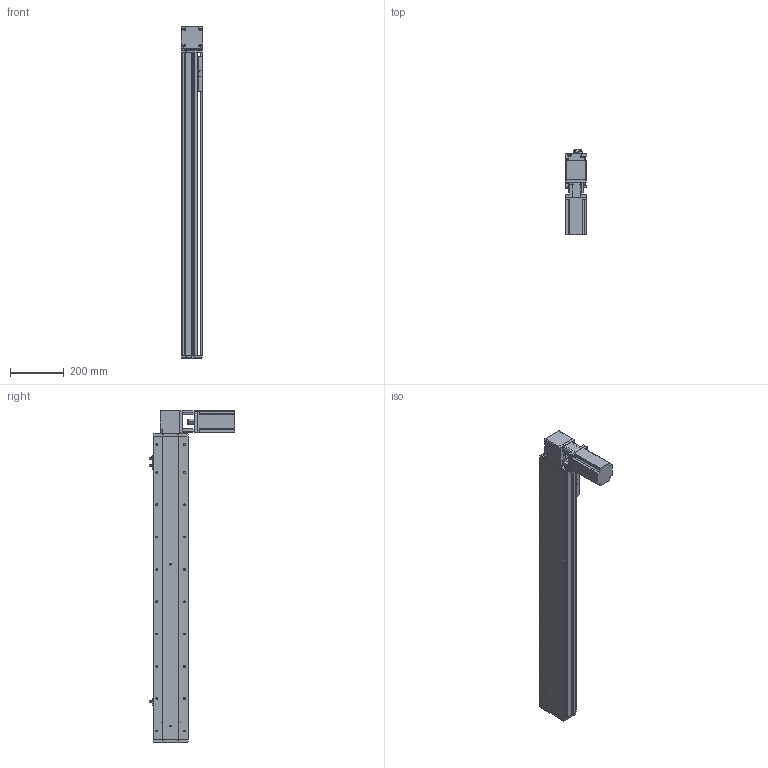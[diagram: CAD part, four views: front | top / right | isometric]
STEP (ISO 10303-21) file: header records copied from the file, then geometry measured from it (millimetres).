
FILE_DESCRIPTION (( 'STEP AP214' ), '1' );
FILE_NAME ('KSD130B-S900-MLT-CM.STEP', '2019-09-23T02:19:42', ( '微软用户' ), ( '微软中国' ), 'SwSTEP 2.0', 'SolidWorks 2014', '' );
FILE_SCHEMA (( 'AUTOMOTIVE_DESIGN' ));
Length unit declared in the file: millimetre
Products named in the file (12): 台达ECMA－C20807AS伺服电机; 130宽马达安装板1-带电机座750W（1）; 覜茼え100遵圉猾敕; U倰嫖萇EEㄜSX672; 130宽安装板同步带带电机座750W; 130宽盖板半封闭同步带-900行程; 130宽马达安装板同步带左-改; 130宽马达安装板同步带半封闭; 130宽同步带安装座半封闭; 130宽端盖同步带半封闭; 130宽底板半封闭同步带-900行程; KSD130B-S900-MLT-CM
Assembly tree (13 placements, depth 2):
  KSD130B-S900-MLT-CM
    130宽底板半封闭同步带-900行程
    130宽端盖同步带半封闭
    130宽同步带安装座半封闭
    130宽马达安装板同步带半封闭
    130宽马达安装板同步带左-改
    130宽盖板半封闭同步带-900行程
    130宽安装板同步带带电机座750W
    U倰嫖萇EEㄜSX672  x3
    覜茼え100遵圉猾敕
    130宽马达安装板1-带电机座750W（1）
    台达ECMA－C20807AS伺服电机
Bounding box: 81 x 316 x 1233 mm (x, y, z)
Volume: 4693660.5 mm3; surface area: 1229925 mm2
Topology: 14 solids, 14 shells, 1499 faces, 4272 edges, 2731 vertices
Faces by surface type: cylinder 721, plane 605, cone 173
Entity records: 49155 total; most frequent: CARTESIAN_POINT 9105, DIRECTION 7486, ORIENTED_EDGE 7196, EDGE_CURVE 3598, AXIS2_PLACEMENT_3D 2744, VERTEX_POINT 2355, VECTOR 1998, LINE 1998
